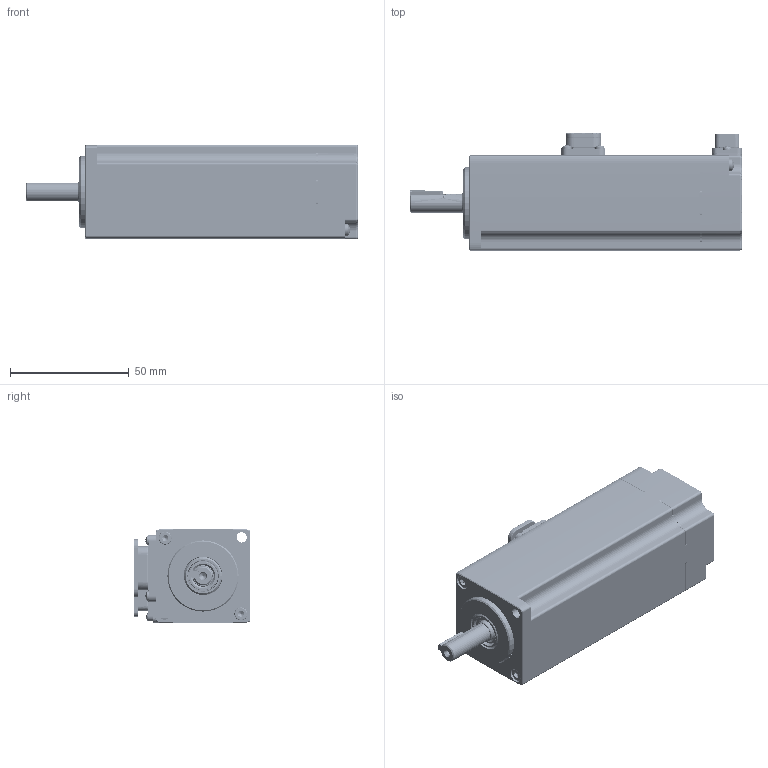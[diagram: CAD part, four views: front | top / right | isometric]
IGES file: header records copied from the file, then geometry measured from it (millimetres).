
Start section: SolidWorks IGES file using analytic representation for surfaces
Global section: file name: Z:\Products\Servo\08.2024\UNITRONICS\B5\UMM-0001BAB-B5.IGS; native system: SolidWorks 2022; preprocessor: SolidWorks 2022; author: OfirZ; date: 240820.124513; units: millimetre
Bounding box: 139.9 x 49.3 x 40 mm (x, y, z)
Surface area: 63755 mm2 (no closed solid volume)
Topology: 0 solids, 0 shells, 2771 faces, 26339 edges, 26246 vertices
Faces by surface type: bspline 1624, revolution 1147
